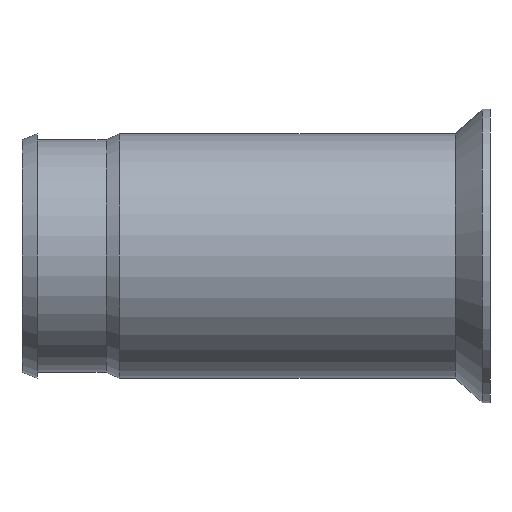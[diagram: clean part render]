
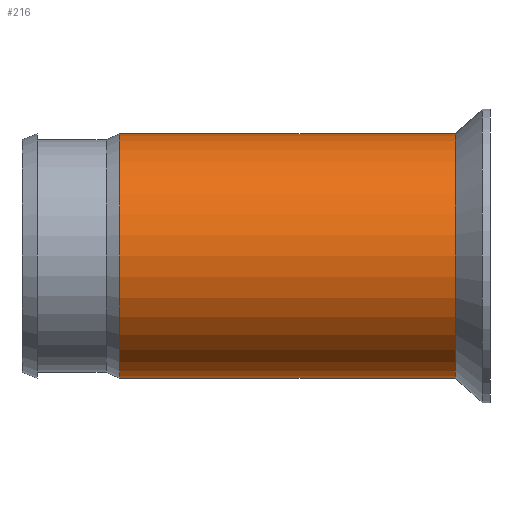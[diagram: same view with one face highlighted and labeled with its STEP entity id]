
A CAD part, front view. The second image highlights one B-rep face of the part: STEP entity #216.
In plain terms, the highlighted cylindrical face has radius 4 mm (diameter 8 mm), a full revolution.
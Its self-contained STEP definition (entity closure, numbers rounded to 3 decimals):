
#23=CYLINDRICAL_SURFACE('',#265,4.);
#34=FACE_OUTER_BOUND('',#49,.T.);
#49=EDGE_LOOP('',(#184,#185,#186,#187,#188,#189));
#58=LINE('',#404,#67);
#67=VECTOR('',#338,4.);
#85=CIRCLE('',#263,4.);
#86=CIRCLE('',#264,4.);
#87=CIRCLE('',#266,4.);
#88=CIRCLE('',#267,4.);
#106=VERTEX_POINT('',#394);
#107=VERTEX_POINT('',#395);
#108=VERTEX_POINT('',#400);
#109=VERTEX_POINT('',#401);
#132=EDGE_CURVE('',#106,#107,#85,.T.);
#133=EDGE_CURVE('',#107,#106,#86,.T.);
#135=EDGE_CURVE('',#108,#109,#87,.T.);
#136=EDGE_CURVE('',#109,#108,#88,.T.);
#137=EDGE_CURVE('',#109,#107,#58,.T.);
#184=ORIENTED_EDGE('',*,*,#135,.F.);
#185=ORIENTED_EDGE('',*,*,#136,.F.);
#186=ORIENTED_EDGE('',*,*,#137,.T.);
#187=ORIENTED_EDGE('',*,*,#133,.T.);
#188=ORIENTED_EDGE('',*,*,#132,.T.);
#189=ORIENTED_EDGE('',*,*,#137,.F.);
#216=ADVANCED_FACE('',(#34),#23,.T.);
#263=AXIS2_PLACEMENT_3D('',#396,#327,#328);
#264=AXIS2_PLACEMENT_3D('',#397,#329,#330);
#265=AXIS2_PLACEMENT_3D('',#399,#332,#333);
#266=AXIS2_PLACEMENT_3D('',#402,#334,#335);
#267=AXIS2_PLACEMENT_3D('',#403,#336,#337);
#327=DIRECTION('center_axis',(1.,0.,0.));
#328=DIRECTION('ref_axis',(0.,0.,-1.));
#329=DIRECTION('center_axis',(1.,0.,0.));
#330=DIRECTION('ref_axis',(0.,0.,-1.));
#332=DIRECTION('center_axis',(1.,0.,0.));
#333=DIRECTION('ref_axis',(0.,1.,0.));
#334=DIRECTION('center_axis',(1.,0.,0.));
#335=DIRECTION('ref_axis',(0.,0.,-1.));
#336=DIRECTION('center_axis',(1.,0.,0.));
#337=DIRECTION('ref_axis',(0.,0.,-1.));
#338=DIRECTION('',(-1.,0.,0.));
#394=CARTESIAN_POINT('',(3.188,4.,0.));
#395=CARTESIAN_POINT('',(3.188,-4.,0.));
#396=CARTESIAN_POINT('Origin',(3.188,0.,0.));
#397=CARTESIAN_POINT('Origin',(3.188,0.,0.));
#399=CARTESIAN_POINT('Origin',(13.71,0.,0.));
#400=CARTESIAN_POINT('',(14.17,4.,0.));
#401=CARTESIAN_POINT('',(14.17,-4.,0.));
#402=CARTESIAN_POINT('Origin',(14.17,0.,0.));
#403=CARTESIAN_POINT('Origin',(14.17,0.,0.));
#404=CARTESIAN_POINT('',(13.71,-4.,0.));
